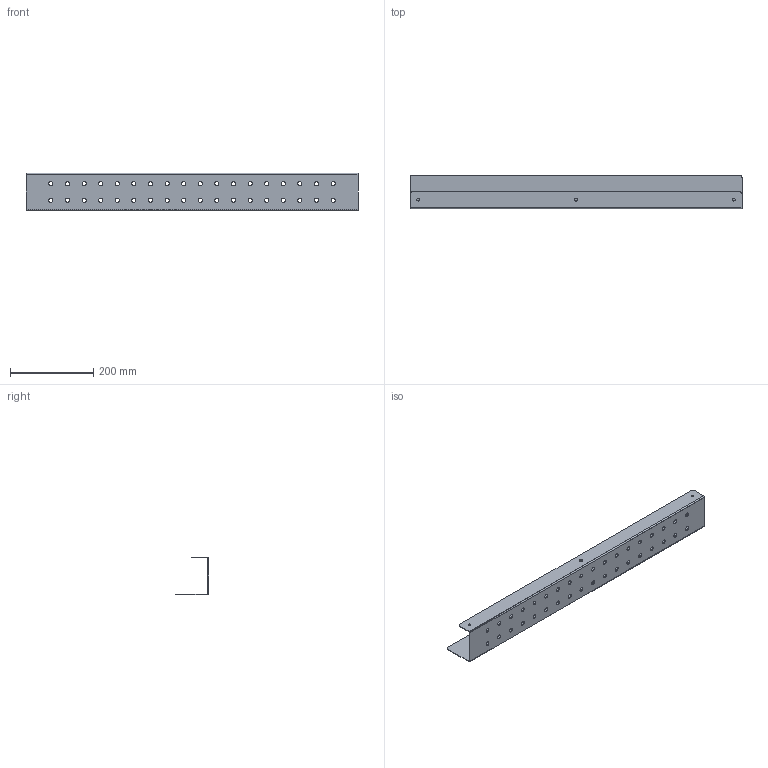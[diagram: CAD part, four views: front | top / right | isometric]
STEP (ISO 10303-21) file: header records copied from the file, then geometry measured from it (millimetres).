
FILE_DESCRIPTION (( 'STEP AP203' ), '1' );
FILE_NAME ('01-004-0800-W-00-01.STEP', '2021-10-28T12:17:36', ( '' ), ( '' ), 'SwSTEP 2.0', 'SolidWorks 2020', '' );
FILE_SCHEMA (( 'CONFIG_CONTROL_DESIGN' ));
Length unit declared in the file: millimetre
Products named in the file (1): 01-004-0800-W-00-01
Bounding box: 800 x 80 x 90 mm (x, y, z)
Volume: 241635.8 mm3; surface area: 326978.8 mm2
Topology: 1 solids, 1 shells, 104 faces, 290 edges, 188 vertices
Faces by surface type: cylinder 86, plane 18
Entity records: 3651 total; most frequent: DIRECTION 672, CARTESIAN_POINT 583, ORIENTED_EDGE 580, EDGE_CURVE 290, AXIS2_PLACEMENT_3D 277, VERTEX_POINT 188, EDGE_LOOP 182, CIRCLE 172
